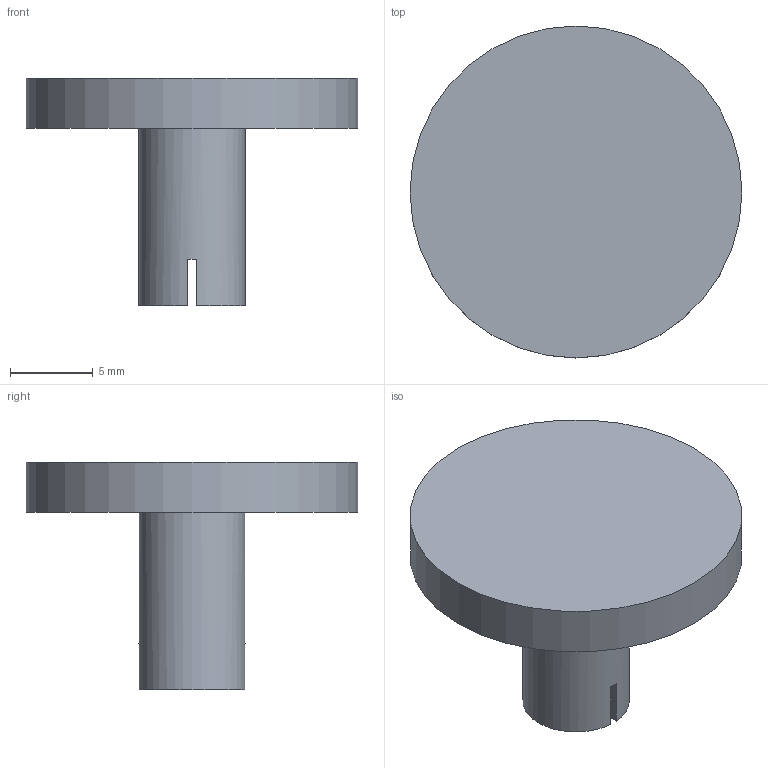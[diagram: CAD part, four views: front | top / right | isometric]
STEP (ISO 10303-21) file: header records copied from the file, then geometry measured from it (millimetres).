
FILE_DESCRIPTION(('FreeCAD Model'),'2;1');
FILE_NAME('Open CASCADE Shape Model','2026-10-20T15:18:15',('FreeCAD'),( 'FreeCAD'),'Open CASCADE STEP processor 7.8','FreeCAD','Unknown');
FILE_SCHEMA(('AUTOMOTIVE_DESIGN { 1 0 10303 214 1 1 1 1 }'));
Length unit declared in the file: millimetre
Products named in the file (1): Open CASCADE STEP translator 7.8 17
Bounding box: 20 x 20 x 13.7 mm (x, y, z)
Volume: 1229.9 mm3; surface area: 1101.6 mm2
Topology: 1 solids, 1 shells, 18 faces, 45 edges, 30 vertices
Faces by surface type: plane 13, cylinder 5
Full cylindrical faces by diameter (mm): 6.4 x1, 20 x1
Entity records: 553 total; most frequent: DIRECTION 97, CARTESIAN_POINT 94, ORIENTED_EDGE 90, EDGE_CURVE 45, AXIS2_PLACEMENT_3D 33, LINE 31, VECTOR 31, VERTEX_POINT 30
